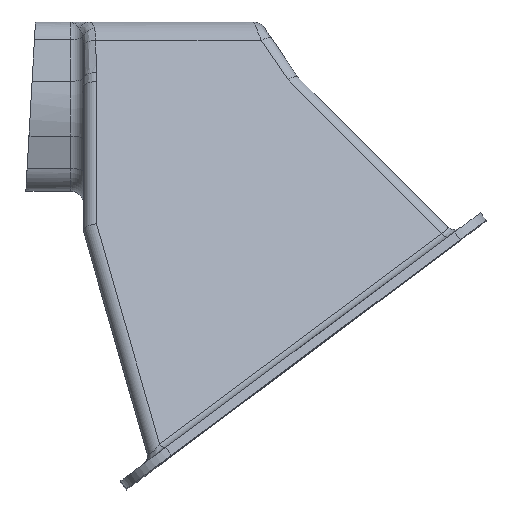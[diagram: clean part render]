
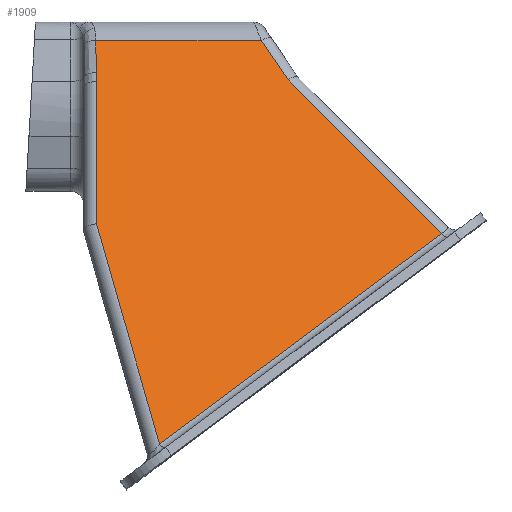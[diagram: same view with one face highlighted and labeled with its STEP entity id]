
A CAD part, top view. The second image highlights one B-rep face of the part: STEP entity #1909.
In plain terms, the highlighted planar face has unit normal (0, 0.429, 0.903).
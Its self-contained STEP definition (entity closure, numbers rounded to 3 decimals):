
#27=B_SPLINE_CURVE_WITH_KNOTS('',3,(#3042,#3043,#3044,#3045),
 .UNSPECIFIED.,.F.,.F.,(4,4),(-2.661,-2.342),
 .UNSPECIFIED.);
#237=FACE_OUTER_BOUND('',#361,.T.);
#361=EDGE_LOOP('',(#1332,#1333,#1334,#1335,#1336,#1337,#1338,#1339));
#493=LINE('',#3018,#621);
#498=LINE('',#3028,#626);
#499=LINE('',#3034,#627);
#500=LINE('',#3036,#628);
#501=LINE('',#3038,#629);
#502=LINE('',#3046,#630);
#621=VECTOR('',#2342,10.);
#626=VECTOR('',#2351,10.);
#627=VECTOR('',#2358,10.);
#628=VECTOR('',#2359,10.);
#629=VECTOR('',#2360,10.);
#630=VECTOR('',#2363,10.);
#753=ELLIPSE('',#2079,61.931,8.);
#811=VERTEX_POINT('',#2891);
#826=VERTEX_POINT('',#3013);
#829=VERTEX_POINT('',#3027);
#831=VERTEX_POINT('',#3033);
#832=VERTEX_POINT('',#3035);
#833=VERTEX_POINT('',#3037);
#834=VERTEX_POINT('',#3039);
#835=VERTEX_POINT('',#3041);
#1013=EDGE_CURVE('',#811,#826,#493,.T.);
#1018=EDGE_CURVE('',#826,#829,#498,.T.);
#1021=EDGE_CURVE('',#831,#811,#499,.T.);
#1022=EDGE_CURVE('',#832,#831,#500,.T.);
#1023=EDGE_CURVE('',#833,#832,#501,.T.);
#1024=EDGE_CURVE('',#834,#833,#753,.T.);
#1025=EDGE_CURVE('',#835,#834,#27,.T.);
#1026=EDGE_CURVE('',#829,#835,#502,.T.);
#1332=ORIENTED_EDGE('',*,*,#1013,.F.);
#1333=ORIENTED_EDGE('',*,*,#1021,.F.);
#1334=ORIENTED_EDGE('',*,*,#1022,.F.);
#1335=ORIENTED_EDGE('',*,*,#1023,.F.);
#1336=ORIENTED_EDGE('',*,*,#1024,.F.);
#1337=ORIENTED_EDGE('',*,*,#1025,.F.);
#1338=ORIENTED_EDGE('',*,*,#1026,.F.);
#1339=ORIENTED_EDGE('',*,*,#1018,.F.);
#1869=PLANE('',#2078);
#1909=ADVANCED_FACE('',(#237),#1869,.T.);
#2078=AXIS2_PLACEMENT_3D('',#3032,#2356,#2357);
#2079=AXIS2_PLACEMENT_3D('',#3040,#2361,#2362);
#2342=DIRECTION('',(-0.771,-0.575,0.274));
#2351=DIRECTION('',(-0.251,0.874,-0.416));
#2356=DIRECTION('center_axis',(0.,0.429,0.903));
#2357=DIRECTION('ref_axis',(0.,-0.903,0.429));
#2358=DIRECTION('',(0.67,-0.67,0.319));
#2359=DIRECTION('',(0.52,-0.771,0.367));
#2360=DIRECTION('',(1.,0.,0.));
#2361=DIRECTION('center_axis',(0.,0.429,0.903));
#2362=DIRECTION('ref_axis',(0.,0.903,-0.429));
#2363=DIRECTION('',(0.,0.903,-0.429));
#2891=CARTESIAN_POINT('',(125.7,-13.346,69.992));
#3013=CARTESIAN_POINT('',(37.716,-79.032,101.213));
#3018=CARTESIAN_POINT('',(90.271,-39.796,82.564));
#3027=CARTESIAN_POINT('',(18.,-10.275,68.532));
#3028=CARTESIAN_POINT('',(5.527,33.224,47.857));
#3032=CARTESIAN_POINT('Origin',(0.,52.7,38.6));
#3033=CARTESIAN_POINT('',(77.761,34.593,47.206));
#3034=CARTESIAN_POINT('',(73.527,38.826,45.194));
#3035=CARTESIAN_POINT('',(69.397,46.993,41.313));
#3036=CARTESIAN_POINT('',(58.533,63.1,33.657));
#3037=CARTESIAN_POINT('',(17.75,46.993,41.313));
#3038=CARTESIAN_POINT('',(0.,46.993,41.313));
#3039=CARTESIAN_POINT('',(17.981,36.971,46.076));
#3040=CARTESIAN_POINT('Origin',(10.,33.113,47.91));
#3041=CARTESIAN_POINT('',(18.,34.088,47.446));
#3042=CARTESIAN_POINT('Ctrl Pts',(18.,34.088,47.446));
#3043=CARTESIAN_POINT('Ctrl Pts',(18.,35.049,46.989));
#3044=CARTESIAN_POINT('Ctrl Pts',(17.99,36.01,46.533));
#3045=CARTESIAN_POINT('Ctrl Pts',(17.981,36.971,46.076));
#3046=CARTESIAN_POINT('',(18.,60.183,35.043));
